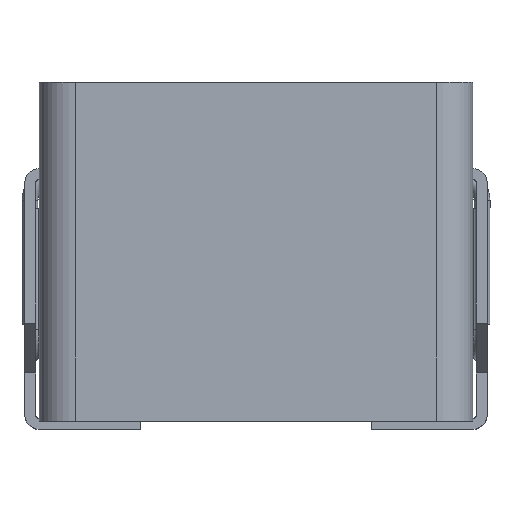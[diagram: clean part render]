
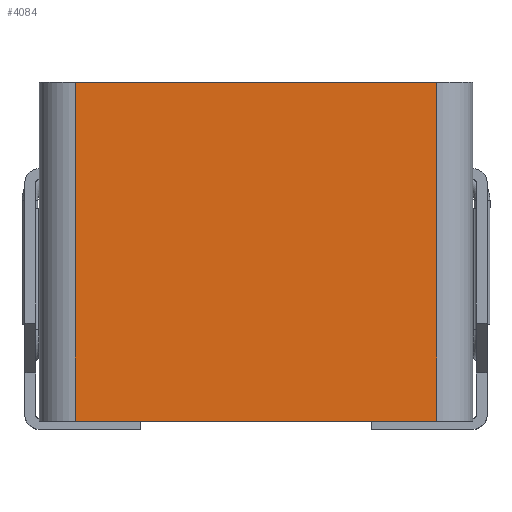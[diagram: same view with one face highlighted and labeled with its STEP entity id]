
A CAD part, top view. The second image highlights one B-rep face of the part: STEP entity #4084.
In plain terms, the highlighted planar face has unit normal (0, 0, 1).
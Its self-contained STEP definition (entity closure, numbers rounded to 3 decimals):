
#328 = PLANE ( 'NONE',  #7005 ) ;
#332 = VECTOR ( 'NONE', #2867, 1000. ) ;
#1049 = CARTESIAN_POINT ( 'NONE',  ( 2.5, -3.5, 3. ) ) ;
#1053 = VECTOR ( 'NONE', #5123, 1000. ) ;
#1346 = EDGE_CURVE ( 'NONE', #7621, #6957, #5691, .T. ) ;
#1633 = DIRECTION ( 'NONE',  ( 0., 1., 0. ) ) ;
#2008 = VERTEX_POINT ( 'NONE', #2348 ) ;
#2208 = EDGE_CURVE ( 'NONE', #5395, #2008, #6348, .T. ) ;
#2255 = CARTESIAN_POINT ( 'NONE',  ( -2.5, -3.5, 3. ) ) ;
#2348 = CARTESIAN_POINT ( 'NONE',  ( 2.5, -3.5, 3. ) ) ;
#2852 = ORIENTED_EDGE ( 'NONE', *, *, #6467, .T. ) ;
#2867 = DIRECTION ( 'NONE',  ( 0., 1., 0. ) ) ;
#3040 = ORIENTED_EDGE ( 'NONE', *, *, #5882, .F. ) ;
#3300 = CARTESIAN_POINT ( 'NONE',  ( 2.5, -3.5, 3. ) ) ;
#3440 = DIRECTION ( 'NONE',  ( 1., 0., 0. ) ) ;
#3638 = ORIENTED_EDGE ( 'NONE', *, *, #2208, .T. ) ;
#3947 = CARTESIAN_POINT ( 'NONE',  ( 2.5, -3.5, 3. ) ) ;
#3984 = ORIENTED_EDGE ( 'NONE', *, *, #1346, .F. ) ;
#4084 = ADVANCED_FACE ( 'NONE', ( #5633 ), #328, .T. ) ;
#4488 = DIRECTION ( 'NONE',  ( 1., 0., 0. ) ) ;
#5098 = DIRECTION ( 'NONE',  ( 0., 0., 1. ) ) ;
#5123 = DIRECTION ( 'NONE',  ( 1., 0., 0. ) ) ;
#5166 = VECTOR ( 'NONE', #1633, 1000. ) ;
#5395 = VERTEX_POINT ( 'NONE', #7542 ) ;
#5575 = CARTESIAN_POINT ( 'NONE',  ( -2.5, 1.19, 3. ) ) ;
#5633 = FACE_OUTER_BOUND ( 'NONE', #5912, .T. ) ;
#5691 = LINE ( 'NONE', #7424, #1053 ) ;
#5780 = LINE ( 'NONE', #3947, #332 ) ;
#5828 = CARTESIAN_POINT ( 'NONE',  ( 2.5, 1.19, 3. ) ) ;
#5882 = EDGE_CURVE ( 'NONE', #5395, #7621, #5909, .T. ) ;
#5909 = LINE ( 'NONE', #2255, #5166 ) ;
#5912 = EDGE_LOOP ( 'NONE', ( #2852, #3984, #3040, #3638 ) ) ;
#6348 = LINE ( 'NONE', #1049, #6859 ) ;
#6467 = EDGE_CURVE ( 'NONE', #2008, #6957, #5780, .T. ) ;
#6859 = VECTOR ( 'NONE', #3440, 1000. ) ;
#6957 = VERTEX_POINT ( 'NONE', #5828 ) ;
#7005 = AXIS2_PLACEMENT_3D ( 'NONE', #3300, #5098, #4488 ) ;
#7424 = CARTESIAN_POINT ( 'NONE',  ( 2.5, 1.19, 3. ) ) ;
#7542 = CARTESIAN_POINT ( 'NONE',  ( -2.5, -3.5, 3. ) ) ;
#7621 = VERTEX_POINT ( 'NONE', #5575 ) ;
